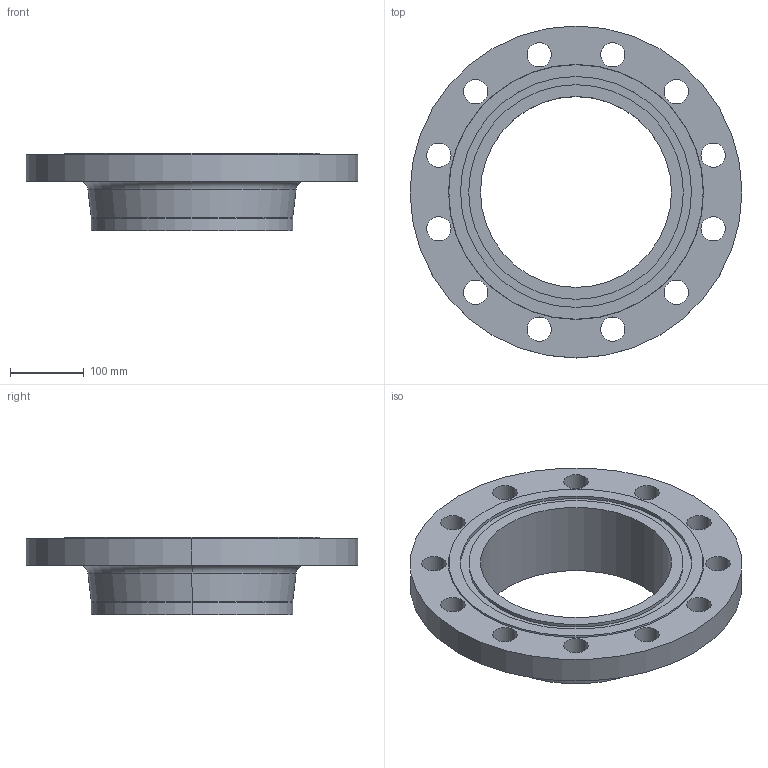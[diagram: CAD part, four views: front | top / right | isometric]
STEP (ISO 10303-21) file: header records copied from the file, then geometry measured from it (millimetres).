
FILE_DESCRIPTION (( 'STEP AP214' ), '1' );
FILE_NAME ('PN40 DN250 Type 11 - Type D Face.STEP', '2019-01-05T16:12:58', ( '' ), ( '' ), 'SwSTEP 2.0', 'SolidWorks 2019', '' );
FILE_SCHEMA (( 'AUTOMOTIVE_DESIGN' ));
Length unit declared in the file: millimetre
Products named in the file (1): PN40 DN250 Type 11 - Type D Face
Bounding box: 450 x 450 x 105 mm (x, y, z)
Volume: 4042006.5 mm3; surface area: 433893.2 mm2
Topology: 1 solids, 1 shells, 48 faces, 120 edges, 78 vertices
Faces by surface type: cylinder 34, plane 6, torus 4, cone 4
Entity records: 1564 total; most frequent: DIRECTION 300, CARTESIAN_POINT 247, ORIENTED_EDGE 240, AXIS2_PLACEMENT_3D 131, EDGE_CURVE 120, CIRCLE 82, EDGE_LOOP 78, VERTEX_POINT 78
